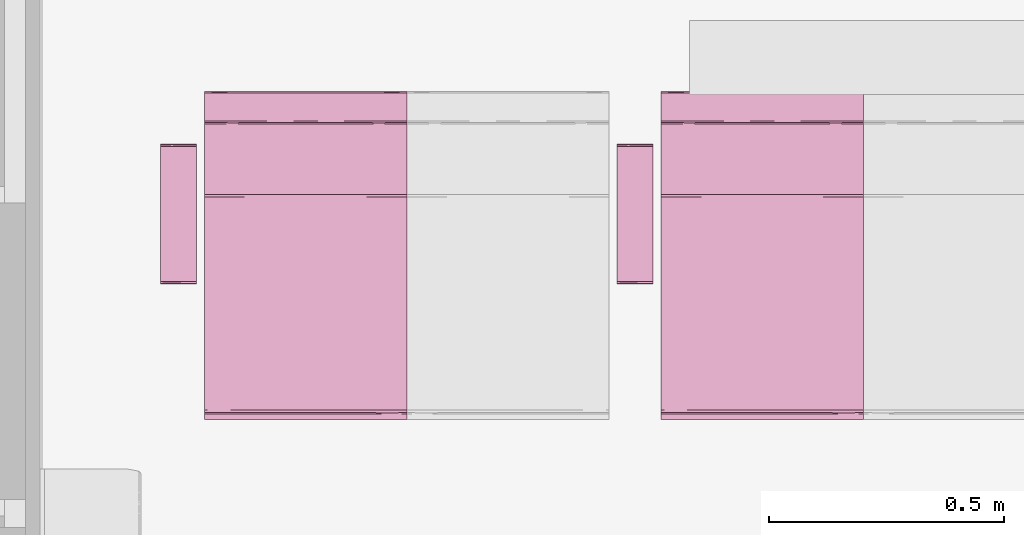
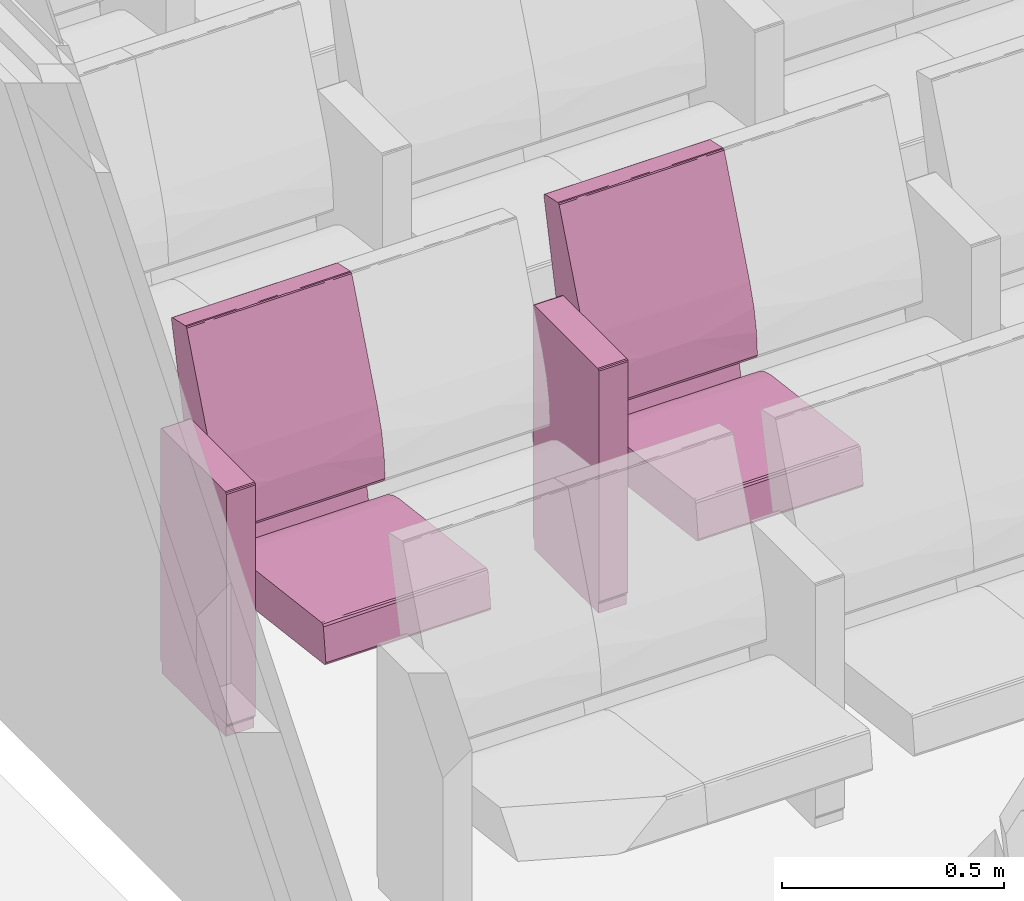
# One storey, part 97 of 155: 2 furnishings.
"""IFC2X3 building model written with IfcOpenShell, lengths in metres."""

from ifc_helpers import new_model, entity, si_unit, converted_unit, derived_unit, direction, frame, origin, place, context, subcontext, project, spatial, faceted_brep, source, transform, mapped, material, material_list, type_object, type_shapes, element, save


model = new_model("IFC2X3")

# Units and contexts
model_context = context("Model", 3, precision=1e-05, world=origin(), true_north=direction((6.12303176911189e-17, 1.0)))
body_context = subcontext(model_context, "Body", "Model", "MODEL_VIEW")
ifc_project = project(units=[si_unit("LENGTHUNIT", "METRE"), si_unit("AREAUNIT", "SQUARE_METRE"), si_unit("VOLUMEUNIT", "CUBIC_METRE"), converted_unit("PLANEANGLEUNIT", "DEGREE", entity("IfcRatioMeasure", 0.0174532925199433), si_unit("PLANEANGLEUNIT", "RADIAN"), dimensions=[0, 0, 0, 0, 0, 0, 0]), si_unit("MASSUNIT", "GRAM", prefix="KILO"), derived_unit("MASSDENSITYUNIT", [(si_unit("MASSUNIT", "GRAM", prefix="KILO"), 1), (si_unit("LENGTHUNIT", "METRE"), -3)]), si_unit("TIMEUNIT", "SECOND"), si_unit("FREQUENCYUNIT", "HERTZ"), si_unit("THERMODYNAMICTEMPERATUREUNIT", "DEGREE_CELSIUS"), derived_unit("THERMALTRANSMITTANCEUNIT", [(si_unit("MASSUNIT", "GRAM", prefix="KILO"), 1), (si_unit("THERMODYNAMICTEMPERATUREUNIT", "KELVIN"), -1), (si_unit("TIMEUNIT", "SECOND"), -3)]), derived_unit("VOLUMETRICFLOWRATEUNIT", [(si_unit("LENGTHUNIT", "METRE"), 3), (si_unit("TIMEUNIT", "SECOND"), -1)]), si_unit("ELECTRICCURRENTUNIT", "AMPERE"), si_unit("ELECTRICVOLTAGEUNIT", "VOLT"), si_unit("POWERUNIT", "WATT"), si_unit("FORCEUNIT", "NEWTON", prefix="KILO"), si_unit("ILLUMINANCEUNIT", "LUX"), si_unit("LUMINOUSFLUXUNIT", "LUMEN"), si_unit("LUMINOUSINTENSITYUNIT", "CANDELA"), derived_unit("USERDEFINED", [(si_unit("MASSUNIT", "GRAM", prefix="KILO"), -1), (si_unit("LENGTHUNIT", "METRE"), -2), (si_unit("TIMEUNIT", "SECOND"), 3), (si_unit("LUMINOUSFLUXUNIT", "LUMEN"), 1)]), derived_unit("LINEARVELOCITYUNIT", [(si_unit("LENGTHUNIT", "METRE"), 1), (si_unit("TIMEUNIT", "SECOND"), -1)]), si_unit("PRESSUREUNIT", "PASCAL"), derived_unit("USERDEFINED", [(si_unit("LENGTHUNIT", "METRE"), -2), (si_unit("MASSUNIT", "GRAM", prefix="KILO"), 1), (si_unit("TIMEUNIT", "SECOND"), -2)])], contexts=[model_context])

# Site, building, storey, space
site_placement = place(None, frame((26.9889013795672, -17.5624287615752, 0.0)))
site = spatial("IfcSite", under=ifc_project, at=site_placement, Name="Default", CompositionType="ELEMENT")
building_placement = place(site_placement, origin())
building = spatial("IfcBuilding", under=site, at=building_placement, Name="C. C. L. Monsenhor Antônio Sampaio", CompositionType="ELEMENT")
storey_placement = place(building_placement, frame((0.0, 0.0, 1.19999999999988)))
storey = spatial("IfcBuildingStorey", under=building, at=storey_placement, Name="Nível 1.2", CompositionType="ELEMENT", Elevation=1.19999999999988)
space_placement = place(storey_placement, origin())
space = spatial("IfcSpace", under=storey, at=space_placement, Name="94", CompositionType="ELEMENT", InteriorOrExteriorSpace="INTERNAL")

# Furnishings
ifc_material_1 = material(Name="V9 - V9 - Ecopelle_672_658")
ifc_material_2 = material(Name="V9 - V9 - RAL_9006_Grigio")
ifc_material_list_1 = material_list([ifc_material_1, ifc_material_2])
ifc_material_list_2 = material_list([ifc_material_1, ifc_material_2])
furniture_type = type_object("IfcFurnitureType", Name="Cadeira auditório", material=ifc_material_list_2)
shared_shape = source(origin(), body_context, "Body", "Brep", [
    faceted_brep([(0.405536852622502, 0.156348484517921, 0.339809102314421), (0.410560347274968, 0.131924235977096, 0.34246450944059), (0.405536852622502, 0.1075, 0.339809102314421), (0.405536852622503, 0.0537499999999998, 0.339809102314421), (0.410597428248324, 0.084060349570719, 0.342506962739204), (0.41079981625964, 0.0179166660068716, 0.342749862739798), (0.405536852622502, 0.215, 0.339809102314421), (0.410248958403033, 0.173608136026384, 0.342130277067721), (0.412515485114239, 0.185674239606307, 0.348529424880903), (0.412515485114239, 0.143333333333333, 0.348529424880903), (0.410560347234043, -0.131924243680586, 0.342464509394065), (0.405536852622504, -0.156348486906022, 0.33980910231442), (0.405536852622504, -0.1075, 0.33980910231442), (0.405536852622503, 0.0, 0.33980910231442), (0.41251548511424, 0.0, 0.348529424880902), (0.411170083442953, -0.0341365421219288, 0.343251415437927), (0.41059742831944, -0.0840603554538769, 0.342506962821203), (0.41251548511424, -0.143333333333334, 0.348529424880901), (0.412515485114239, 0.0358333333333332, 0.348529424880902), (0.412515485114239, 0.0716666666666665, 0.348529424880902), (0.405536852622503, -0.0537500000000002, 0.33980910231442), (0.412515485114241, -0.185674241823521, 0.348529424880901), (0.410799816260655, -0.215, 0.342749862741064), (0.410248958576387, -0.173608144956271, 0.342130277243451), (0.410799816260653, 0.215, 0.342749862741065), (0.412515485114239, 0.215, 0.348529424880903), (0.412515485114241, -0.215, 0.348529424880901), (0.41251548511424, -0.0716666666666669, 0.348529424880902), (0.405536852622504, -0.215, 0.33980910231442), (-0.0557900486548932, -0.215, 0.28268145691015), (-0.055790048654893, -0.168631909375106, 0.282681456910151), (-0.0557900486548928, -0.138065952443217, 0.282681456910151), (-0.0557900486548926, -0.107499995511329, 0.282681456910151), (-0.0557900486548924, -0.0806249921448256, 0.282681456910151), (-0.0557900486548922, -0.0537499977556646, 0.282681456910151), (-0.0557900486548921, -0.0268750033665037, 0.282681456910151), (-0.0557900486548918, 0.0, 0.28268145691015), (-0.0557900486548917, 0.0268749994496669, 0.282681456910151), (-0.0557900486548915, 0.0537499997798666, 0.282681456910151), (-0.0557900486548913, 0.0806250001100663, 0.282681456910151), (-0.0557900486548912, 0.107499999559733, 0.282681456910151), (-0.055790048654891, 0.134374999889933, 0.282681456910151), (-0.0557900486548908, 0.161250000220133, 0.282681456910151), (-0.0557900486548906, 0.1881249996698, 0.282681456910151), (-0.0557900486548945, 0.215, 0.28268145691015), (-0.0594787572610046, -0.0152829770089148, 0.283700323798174), (-0.0613666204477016, 0.0, 0.287029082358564), (-0.0594787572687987, 0.0179017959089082, 0.283700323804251), (-0.0613666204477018, 0.191815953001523, 0.287029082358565), (-0.0613666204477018, 0.215, 0.287029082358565), (-0.0594787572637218, 0.215, 0.283700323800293), (-0.0593340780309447, 0.0671874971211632, 0.283591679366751), (-0.0613666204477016, 0.030565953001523, 0.287029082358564), (-0.0594787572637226, -0.215, 0.283700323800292), (-0.0593337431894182, -0.184174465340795, 0.283591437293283), (-0.0613666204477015, -0.122263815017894, 0.287029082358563), (-0.0613666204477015, -0.0916978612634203, 0.287029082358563), (-0.0613666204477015, -0.0611319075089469, 0.287029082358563), (-0.0593023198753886, -0.0940625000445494, 0.283568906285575), (-0.059382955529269, 0.118123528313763, 0.28362747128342), (-0.0613666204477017, 0.122263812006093, 0.287029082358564), (-0.0597338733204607, 0.147039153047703, 0.283913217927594), (-0.0613666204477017, 0.168631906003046, 0.287029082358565), (-0.0592501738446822, 0.180223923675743, 0.283532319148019), (-0.0588783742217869, 0.0926899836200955, 0.283298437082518), (-0.0613666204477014, -0.215, 0.287029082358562), (-0.0613666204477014, -0.168631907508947, 0.287029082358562), (-0.0592576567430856, -0.123736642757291, 0.283537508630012), (-0.0594787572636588, -0.153348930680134, 0.283700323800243), (-0.0613666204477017, 0.0916978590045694, 0.287029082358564), (-0.0613666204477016, -0.0305659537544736, 0.287029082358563), (-0.059645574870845, -0.045848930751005, 0.283836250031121), (-0.0613666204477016, 0.0611319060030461, 0.287029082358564), (-0.069340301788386, -0.215, 0.351419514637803), (-0.0693403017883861, -0.143333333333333, 0.351419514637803), (-0.0693403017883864, -0.0716666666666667, 0.351419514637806), (-0.0693403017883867, 0.0, 0.351419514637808), (-0.069340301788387, 0.0716666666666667, 0.351419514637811), (-0.0693403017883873, 0.143333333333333, 0.351419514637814), (-0.0693403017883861, 0.215, 0.351419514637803), (-0.0597085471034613, 0.0, 0.37476954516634), (-0.0645543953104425, 0.112272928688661, 0.369803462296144), (-0.0653387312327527, 0.0126787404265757, 0.368680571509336), (-0.0681665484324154, -0.0888707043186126, 0.36292533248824), (-0.0655136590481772, -0.10440004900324, 0.368411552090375), (-0.0694879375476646, 0.0590582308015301, 0.356377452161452), (-0.0695056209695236, -0.125492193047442, 0.356093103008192), (-0.0597085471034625, -0.110316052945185, 0.374769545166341), (-0.0690003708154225, 0.132942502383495, 0.359900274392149), (-0.0672851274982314, 0.108066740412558, 0.365148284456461), (-0.0676206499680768, 0.215, 0.364371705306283), (-0.0686241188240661, 0.215, 0.356813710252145), (-0.0686241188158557, -0.214999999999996, 0.356813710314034), (-0.0686999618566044, 0.0358333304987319, 0.36116674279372), (-0.0694502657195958, -0.0358333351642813, 0.356863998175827), (-0.0676206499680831, -0.214999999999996, 0.364371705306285), (-0.0636645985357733, -0.214999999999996, 0.369570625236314), (-0.0597085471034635, -0.214999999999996, 0.374769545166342), (-0.0597085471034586, 0.215, 0.374769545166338), (-0.0636645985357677, 0.215, 0.36957062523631), (-0.0597085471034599, 0.110316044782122, 0.374769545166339), (-0.0324117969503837, 0.215, 0.390639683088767), (-0.0324117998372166, 0.0436847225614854, 0.39063968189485), (-0.0018793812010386, 0.215, 0.398686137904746), (-0.041847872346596, -0.0856576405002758, 0.386239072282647), (-0.0324117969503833, -0.215, 0.390639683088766), (-0.00187938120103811, -0.215, 0.398686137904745), (-0.00187938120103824, -0.102488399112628, 0.398686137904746), (-0.0219042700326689, -0.0570631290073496, 0.394412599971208), (-0.00187938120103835, 0.0, 0.398686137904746), (0.392202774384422, 0.215, 0.447486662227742), (0.392202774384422, -0.215, 0.447486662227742), (0.392202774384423, -0.156349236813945, 0.447486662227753), (0.392202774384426, -0.107499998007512, 0.447486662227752), (0.392202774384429, -0.0537500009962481, 0.44748666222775), (0.392202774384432, 0.0, 0.447486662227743), (0.392202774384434, 0.0537499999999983, 0.447486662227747), (0.392202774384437, 0.107499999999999, 0.447486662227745), (0.392202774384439, 0.156349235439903, 0.447486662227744), (0.398104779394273, -0.131924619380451, 0.445856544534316), (0.401125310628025, -0.0976984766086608, 0.440530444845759), (0.397860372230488, -0.0827732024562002, 0.446039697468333), (0.401125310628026, -0.215000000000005, 0.440530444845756), (0.401125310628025, -0.156349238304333, 0.440530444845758), (0.397373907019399, -0.173462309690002, 0.446363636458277), (0.398104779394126, -0.215000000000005, 0.445856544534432), (0.397860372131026, 0.0827731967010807, 0.446039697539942), (0.398104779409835, 0.131924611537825, 0.445856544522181), (0.398104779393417, -0.0237489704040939, 0.445856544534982), (0.398104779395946, 0.0268749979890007, 0.445856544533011), (0.401125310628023, 0.0488492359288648, 0.440530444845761), (0.401125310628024, -0.0488492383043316, 0.440530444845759), (0.398774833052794, 0.173462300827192, 0.445271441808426), (0.401125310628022, 0.097698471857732, 0.440530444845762), (0.401125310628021, 0.215, 0.440530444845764), (0.39810477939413, 0.215, 0.445856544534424), (0.401125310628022, 0.156349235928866, 0.440530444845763), (0.401125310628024, 0.0, 0.44053044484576)], [[[0, 1, 2]], [[3, 4, 5]], [[6, 7, 0]], [[7, 8, 9]], [[10, 11, 12]], [[3, 5, 13]], [[14, 15, 5]], [[16, 17, 10]], [[9, 1, 7]], [[18, 5, 4]], [[4, 9, 19, 18]], [[9, 4, 1]], [[2, 1, 4]], [[13, 15, 20]], [[21, 22, 23]], [[5, 18, 14]], [[24, 25, 8]], [[22, 21, 26]], [[24, 7, 6]], [[23, 11, 10]], [[20, 15, 16]], [[3, 2, 4]], [[14, 27, 15]], [[5, 15, 13]], [[27, 17, 16]], [[10, 12, 16]], [[21, 23, 17]], [[20, 16, 12]], [[15, 27, 16]], [[7, 1, 0]], [[28, 11, 23]], [[8, 7, 24]], [[23, 10, 17]], [[28, 23, 22]], [[28, 29, 30, 31, 32, 33, 34, 35, 36, 37, 38, 39, 40, 41, 42, 43, 44, 6, 0, 2, 3, 13, 20, 12, 11]], [[45, 46, 47]], [[48, 49, 50]], [[51, 47, 52]], [[29, 53, 54]], [[55, 56, 57, 58]], [[59, 60, 61]], [[61, 62, 63]], [[51, 64, 39]], [[65, 66, 54]], [[31, 67, 32]], [[45, 47, 38, 37, 36, 35]], [[68, 31, 30]], [[43, 50, 44]], [[63, 42, 61]], [[48, 50, 63]], [[64, 69, 59]], [[68, 54, 66]], [[63, 62, 48]], [[50, 43, 63]], [[67, 55, 58]], [[61, 42, 41]], [[45, 70, 46]], [[55, 68, 66]], [[71, 33, 58]], [[71, 57, 70]], [[41, 40, 59]], [[60, 62, 61]], [[71, 35, 34, 33]], [[35, 71, 45]], [[47, 46, 52]], [[45, 71, 70]], [[58, 57, 71]], [[32, 58, 33]], [[31, 68, 67]], [[54, 68, 30]], [[29, 54, 30]], [[54, 53, 65]], [[55, 67, 68]], [[32, 67, 58]], [[51, 52, 72, 69]], [[43, 42, 63]], [[41, 59, 61]], [[47, 51, 38]], [[40, 39, 64]], [[38, 51, 39]], [[69, 60, 59]], [[69, 64, 51]], [[40, 64, 59]], [[65, 73, 74, 75, 76, 77, 78, 79, 49, 48, 62, 60, 69, 72, 52, 46, 70, 57, 56, 55, 66]], [[80, 81, 82]], [[82, 83, 84]], [[78, 77, 76, 85]], [[86, 75, 74]], [[84, 80, 82]], [[80, 84, 87]], [[88, 89, 90]], [[91, 79, 78]], [[74, 73, 92]], [[85, 88, 91]], [[81, 89, 82]], [[93, 94, 83]], [[94, 86, 83]], [[85, 76, 94]], [[92, 86, 74]], [[85, 94, 93]], [[83, 92, 95]], [[75, 94, 76]], [[93, 83, 82]], [[95, 96, 84]], [[88, 85, 93]], [[96, 97, 87]], [[98, 99, 100]], [[78, 85, 91]], [[89, 88, 93]], [[90, 91, 88]], [[93, 82, 89]], [[81, 99, 89]], [[99, 90, 89]], [[100, 81, 80]], [[100, 99, 81]], [[83, 86, 92]], [[75, 86, 94]], [[95, 84, 83]], [[87, 84, 96]], [[101, 102, 103]], [[104, 80, 87, 97]], [[105, 106, 107]], [[107, 108, 105]], [[103, 102, 109]], [[104, 102, 80]], [[104, 108, 102]], [[98, 102, 101]], [[105, 104, 97]], [[105, 108, 104]], [[102, 98, 100, 80]], [[109, 108, 107]], [[109, 102, 108]], [[110, 103, 109, 107, 106, 111, 112, 113, 114, 115, 116, 117, 118]], [[119, 120, 121]], [[122, 123, 124]], [[111, 125, 124]], [[117, 116, 126]], [[124, 119, 112]], [[113, 112, 119]], [[127, 118, 117]], [[115, 114, 128, 129, 116]], [[129, 130, 126]], [[121, 131, 128]], [[127, 132, 118]], [[110, 118, 132]], [[127, 126, 133]], [[119, 124, 123]], [[134, 135, 132]], [[136, 132, 127]], [[120, 119, 123]], [[133, 136, 127]], [[137, 130, 129, 128, 131]], [[126, 127, 117]], [[130, 133, 126]], [[113, 119, 121]], [[129, 126, 116]], [[128, 114, 121]], [[114, 113, 121]], [[131, 121, 120]], [[111, 124, 112]], [[124, 125, 122]], [[134, 132, 136]], [[132, 135, 110]], [[19, 9, 8, 25, 134, 136, 133, 130, 137, 131, 120, 123, 122, 26, 21, 17, 27, 14, 18]], [[65, 53, 29, 28, 22, 26, 122, 125, 111, 106, 105, 97, 96, 95, 92, 73]], [[98, 101, 103, 110, 135, 134, 25, 24, 6, 44, 50, 49, 79, 91, 90, 99]]]),
    faceted_brep([(0.123144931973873, -0.283972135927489, 0.673627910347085), (0.12334838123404, -0.259944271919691, 0.6734355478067), (0.119812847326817, -0.27, 0.674900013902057), (0.124812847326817, -0.27, 0.669900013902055), (0.12334838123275, -0.232, 0.673435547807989), (0.119812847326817, -0.232, 0.674900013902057), (0.124812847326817, -0.308, 0.669900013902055), (0.119812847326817, -0.308, 0.674900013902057), (0.124812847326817, -0.249888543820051, 0.669900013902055), (0.124812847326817, -0.232, 0.669900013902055), (0.12334838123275, -0.308, 0.673435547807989), (0.124812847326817, -0.27, 0.035), (0.124812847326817, -0.232, 0.035), (0.124812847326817, -0.308, 0.0350000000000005), (0.123540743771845, -0.283972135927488, 0.0316679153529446), (0.12334838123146, -0.25994427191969, 0.0314644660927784), (0.119812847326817, -0.27, 0.0300000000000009), (0.12334838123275, -0.232, 0.0314644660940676), (0.119812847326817, -0.308, 0.0300000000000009), (0.119812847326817, -0.249888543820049, 0.030000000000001), (0.119812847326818, -0.232, 0.030000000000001), (0.123348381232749, -0.308, 0.0314644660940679), (-0.167179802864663, -0.308, 0.0300000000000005), (-0.167179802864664, -0.27, 0.0300000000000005), (-0.167179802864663, -0.232, 0.0300000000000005), (-0.17051188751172, -0.283972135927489, 0.0312721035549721), (-0.170715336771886, -0.25994427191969, 0.0314644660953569), (-0.172179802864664, -0.27, 0.0350000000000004), (-0.170715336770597, -0.232, 0.0314644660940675), (-0.172179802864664, -0.308, 0.0350000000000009), (-0.172179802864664, -0.24988854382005, 0.0350000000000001), (-0.172179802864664, -0.232, 0.0349999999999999), (-0.170715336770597, -0.308, 0.0314644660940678), (-0.172179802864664, -0.308, 0.669900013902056), (-0.172179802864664, -0.27, 0.669900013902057), (-0.172179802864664, -0.232, 0.669900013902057), (-0.170907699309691, -0.283972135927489, 0.673232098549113), (-0.170715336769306, -0.259944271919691, 0.673435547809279), (-0.167179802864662, -0.27, 0.674900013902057), (-0.170715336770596, -0.232, 0.67343554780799), (-0.167179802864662, -0.308, 0.674900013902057), (-0.167179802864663, -0.249888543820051, 0.674900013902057), (-0.167179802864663, -0.232, 0.674900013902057), (-0.170715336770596, -0.308, 0.67343554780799)], [[[0, 1, 2]], [[1, 0, 3]], [[1, 4, 5, 2]], [[6, 3, 0]], [[7, 0, 2]], [[4, 1, 3, 8, 9]], [[10, 0, 7]], [[0, 10, 6]], [[11, 12, 9, 8, 3, 6, 13]], [[14, 15, 11]], [[15, 14, 16]], [[15, 17, 12, 11]], [[18, 16, 14]], [[13, 14, 11]], [[17, 15, 16, 19, 20]], [[21, 14, 13]], [[14, 21, 18]], [[18, 22, 23, 24, 20, 19, 16]], [[25, 26, 23]], [[26, 25, 27]], [[26, 28, 24, 23]], [[29, 27, 25]], [[22, 25, 23]], [[28, 26, 27, 30, 31]], [[32, 25, 22]], [[25, 32, 29]], [[27, 29, 33, 34, 35, 31, 30]], [[36, 37, 34]], [[37, 36, 38]], [[37, 39, 35, 34]], [[40, 38, 36]], [[33, 36, 34]], [[39, 37, 38, 41, 42]], [[43, 36, 33]], [[36, 43, 40]], [[40, 7, 2, 5, 42, 41, 38]], [[35, 39, 42, 5, 4, 9, 12, 17, 20, 24, 28, 31]], [[29, 32, 22, 18, 21, 13, 6, 10, 7, 40, 43, 33]]]),
    faceted_brep([(-0.0695672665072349, 0.215, 0.476508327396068), (-0.074405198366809, 0.0524423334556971, 0.506888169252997), (-0.0655618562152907, 0.215, 0.415143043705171), (-0.0744051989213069, -0.0780075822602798, 0.506888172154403), (-0.0655618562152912, 0.0, 0.415143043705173), (-0.0655618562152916, -0.215, 0.415143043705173), (-0.0655618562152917, -0.1075, 0.415143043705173), (-0.0655618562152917, 0.1075, 0.415143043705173), (-0.0695672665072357, -0.215, 0.476508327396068), (-0.081111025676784, -0.215, 0.536911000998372), (-0.0811110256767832, 0.215, 0.536911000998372), (-0.100016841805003, 0.215, 0.595428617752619), (-0.100016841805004, 0.0, 0.595428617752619), (-0.100016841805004, -0.215, 0.595428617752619), (-0.0698317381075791, 0.0358333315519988, 0.406528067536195), (-0.0792851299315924, 0.0, 0.404772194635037), (-0.0792851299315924, 0.0716666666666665, 0.404772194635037), (-0.0792851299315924, -0.215, 0.404772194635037), (-0.0792851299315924, -0.143333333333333, 0.404772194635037), (-0.0698317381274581, -0.215, 0.406528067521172), (-0.0792851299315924, 0.143333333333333, 0.404772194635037), (-0.0792851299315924, 0.215, 0.404772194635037), (-0.0698317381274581, 0.215, 0.406528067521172), (-0.0694171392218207, 0.140338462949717, 0.406857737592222), (-0.0708115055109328, -0.0356393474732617, 0.405868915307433), (-0.0703502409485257, -0.107500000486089, 0.406159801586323), (-0.0792851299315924, -0.0716666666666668, 0.404772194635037), (-0.163837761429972, -0.215, 0.420611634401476), (-0.163837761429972, 0.215, 0.420611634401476), (-0.123612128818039, 0.215, 0.235917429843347), (-0.123612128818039, -0.215, 0.235917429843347), (-0.142059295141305, -0.215, 0.231899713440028), (-0.142059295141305, 0.215, 0.231899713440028), (-0.235388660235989, -0.215, 0.652619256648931), (-0.235388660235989, 0.215, 0.652619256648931), (-0.28428001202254, -0.215, 0.873004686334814), (-0.284280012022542, -0.191295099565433, 0.873004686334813), (-0.284280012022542, -0.161249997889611, 0.873004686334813), (-0.284280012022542, -0.134374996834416, 0.873004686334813), (-0.284280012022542, -0.107499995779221, 0.873004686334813), (-0.284280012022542, -0.0806249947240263, 0.873004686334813), (-0.284280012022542, -0.0537499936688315, 0.873004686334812), (-0.284280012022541, -0.0268749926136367, 0.873004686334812), (-0.28428001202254, 0.0, 0.873004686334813), (-0.284280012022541, 0.0268749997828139, 0.873004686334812), (-0.284280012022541, 0.0537500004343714, 0.873004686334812), (-0.284280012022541, 0.0806250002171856, 0.873004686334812), (-0.284280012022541, 0.1075, 0.873004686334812), (-0.284280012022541, 0.134374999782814, 0.873004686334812), (-0.28428001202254, 0.161249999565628, 0.873004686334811), (-0.28428001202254, 0.191295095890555, 0.873004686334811), (-0.28428001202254, 0.215, 0.873004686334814), (-0.283746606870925, 0.0872244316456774, 0.876674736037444), (-0.283504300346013, 0.0569644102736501, 0.877068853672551), (-0.283567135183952, -0.15546176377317, 0.876973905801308), (-0.283641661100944, -0.12093750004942, 0.87685511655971), (-0.283567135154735, 0.155461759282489, 0.876973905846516), (-0.28330409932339, 0.185293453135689, 0.877344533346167), (-0.283641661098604, 0.0179166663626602, 0.876855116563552), (-0.283641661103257, -0.0136463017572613, 0.876855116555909), (-0.280514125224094, -0.0358333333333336, 0.879190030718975), (-0.280514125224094, 0.0, 0.879190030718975), (-0.280514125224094, 0.0358333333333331, 0.879190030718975), (-0.280514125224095, -0.143333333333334, 0.879190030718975), (-0.280514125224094, -0.1075, 0.879190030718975), (-0.280514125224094, -0.071666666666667, 0.879190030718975), (-0.283746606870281, -0.0872244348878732, 0.876674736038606), (-0.280514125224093, 0.0716666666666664, 0.879190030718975), (-0.280514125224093, 0.1075, 0.879190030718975), (-0.283641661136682, 0.120937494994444, 0.876855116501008), (-0.280514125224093, 0.143333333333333, 0.879190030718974), (-0.283641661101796, 0.215, 0.876855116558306), (-0.283641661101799, -0.215, 0.876855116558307), (-0.283304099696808, -0.18529345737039, 0.877344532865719), (-0.280514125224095, -0.167590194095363, 0.879190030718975), (-0.280514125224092, 0.215, 0.879190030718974), (-0.280514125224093, 0.167590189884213, 0.879190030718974), (-0.280514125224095, -0.215, 0.879190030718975), (-0.283504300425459, -0.0569644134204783, 0.8770688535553), (-0.22111253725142, 0.215, 0.892176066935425), (-0.22111253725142, -0.215, 0.892176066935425), (-0.221112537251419, -0.191815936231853, 0.892176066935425), (-0.221112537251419, -0.161250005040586, 0.892176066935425), (-0.221112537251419, -0.134375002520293, 0.892176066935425), (-0.221112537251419, -0.1075, 0.892176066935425), (-0.221112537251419, -0.080624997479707, 0.892176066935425), (-0.221112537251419, -0.0537499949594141, 0.892176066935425), (-0.221112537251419, -0.0268750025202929, 0.892176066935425), (-0.221112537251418, 0.0, 0.892176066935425), (-0.221112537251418, 0.0268750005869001, 0.892176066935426), (-0.221112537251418, 0.05375000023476, 0.892176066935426), (-0.221112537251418, 0.0806249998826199, 0.892176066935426), (-0.221112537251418, 0.10749999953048, 0.892176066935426), (-0.221112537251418, 0.13437499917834, 0.892176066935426), (-0.221112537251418, 0.16124999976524, 0.892176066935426), (-0.221112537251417, 0.19181594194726, 0.892176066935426), (-0.215419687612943, 0.0, 0.889191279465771), (-0.215419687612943, 0.0358333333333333, 0.889191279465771), (-0.217722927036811, 0.0162353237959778, 0.891719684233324), (-0.217722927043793, -0.0134375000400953, 0.891719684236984), (-0.215419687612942, -0.191815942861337, 0.889191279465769), (-0.215419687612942, -0.168631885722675, 0.889191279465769), (-0.217722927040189, -0.182482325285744, 0.891719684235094), (-0.217722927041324, -0.215, 0.891719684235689), (-0.215419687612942, -0.215, 0.889191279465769), (-0.215419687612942, -0.1075, 0.88919127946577), (-0.215419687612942, -0.0716666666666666, 0.88919127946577), (-0.217722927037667, -0.0912646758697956, 0.891719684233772), (-0.217722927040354, -0.120937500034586, 0.89171968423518), (-0.215419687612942, -0.143333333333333, 0.88919127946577), (-0.215419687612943, 0.191815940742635, 0.889191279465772), (-0.215419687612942, 0.215, 0.889191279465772), (-0.217722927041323, 0.215, 0.89171968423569), (-0.217722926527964, 0.190103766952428, 0.891719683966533), (-0.217722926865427, 0.0912646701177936, 0.891719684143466), (-0.217816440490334, 0.0647800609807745, 0.891767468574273), (-0.215419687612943, 0.0716666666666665, 0.889191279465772), (-0.217816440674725, -0.0647800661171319, 0.891767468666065), (-0.2179983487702, -0.0390825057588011, 0.891853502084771), (-0.217558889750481, -0.155982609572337, 0.891629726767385), (-0.217722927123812, 0.120937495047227, 0.891719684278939), (-0.215419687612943, 0.16863188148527, 0.889191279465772), (-0.215419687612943, 0.143333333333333, 0.889191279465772), (-0.217558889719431, 0.15598260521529, 0.891629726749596), (-0.215419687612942, -0.0358333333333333, 0.889191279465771), (-0.215419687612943, 0.1075, 0.889191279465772), (-0.218257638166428, 0.0404491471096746, 0.891961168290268)], [[[0, 1, 2]], [[1, 3, 4]], [[3, 5, 6, 4]], [[1, 4, 7, 2]], [[5, 3, 8]], [[8, 3, 9]], [[0, 10, 1]], [[11, 12, 1]], [[3, 13, 9]], [[3, 12, 13]], [[11, 1, 10]], [[3, 1, 12]], [[14, 15, 16]], [[17, 18, 19]], [[20, 21, 22]], [[2, 23, 22]], [[14, 7, 4]], [[14, 24, 15]], [[6, 25, 24]], [[22, 23, 20]], [[14, 23, 7]], [[19, 6, 5]], [[4, 24, 14]], [[16, 23, 14]], [[16, 20, 23]], [[26, 25, 18]], [[25, 19, 18]], [[15, 24, 26]], [[23, 2, 7]], [[19, 25, 6]], [[26, 24, 25]], [[6, 24, 4]], [[15, 26, 18, 17, 27, 28, 21, 20, 16]], [[29, 28, 27, 30]], [[30, 31, 32, 29]], [[32, 31, 33, 34]], [[34, 33, 35, 36, 37, 38, 39, 40, 41, 42, 43, 44, 45, 46, 47, 48, 49, 50, 51]], [[52, 46, 53]], [[38, 54, 55]], [[56, 57, 49]], [[58, 59, 60, 61, 62]], [[63, 64, 55]], [[64, 65, 66]], [[52, 67, 68]], [[69, 70, 56]], [[49, 57, 50]], [[38, 55, 39]], [[71, 51, 50]], [[36, 35, 72]], [[59, 58, 44, 43, 42]], [[73, 74, 54]], [[55, 66, 39]], [[75, 57, 76]], [[77, 74, 73]], [[69, 52, 68]], [[37, 36, 73]], [[54, 74, 63]], [[56, 76, 57]], [[36, 72, 73]], [[75, 71, 57]], [[70, 76, 56]], [[52, 69, 47]], [[48, 47, 69]], [[42, 78, 59]], [[66, 55, 64]], [[50, 57, 71]], [[73, 54, 37]], [[77, 73, 72]], [[48, 69, 56]], [[56, 49, 48]], [[69, 68, 70]], [[53, 46, 45, 44]], [[58, 62, 53]], [[53, 44, 58]], [[38, 37, 54]], [[63, 55, 54]], [[78, 66, 65]], [[78, 40, 66]], [[67, 52, 53]], [[78, 42, 41, 40]], [[65, 60, 78]], [[59, 78, 60]], [[52, 47, 46]], [[40, 39, 66]], [[62, 67, 53]], [[79, 75, 76, 70, 68, 67, 62, 61, 60, 65, 64, 63, 74, 77, 80, 81, 82, 83, 84, 85, 86, 87, 88, 89, 90, 91, 92, 93, 94, 95]], [[96, 97, 98, 99]], [[100, 101, 102, 103, 104]], [[105, 106, 107, 108, 109]], [[110, 111, 112]], [[113, 112, 95]], [[114, 115, 116]], [[117, 118, 86]], [[82, 119, 83]], [[102, 82, 81, 80, 103]], [[112, 79, 95]], [[108, 107, 85, 84, 83]], [[88, 87, 99, 98, 89]], [[119, 101, 109]], [[93, 92, 120]], [[117, 85, 107]], [[113, 121, 110]], [[122, 121, 123]], [[113, 94, 123]], [[124, 99, 118]], [[122, 123, 120]], [[108, 119, 109]], [[113, 110, 112]], [[102, 101, 119]], [[119, 108, 83]], [[114, 125, 120]], [[123, 94, 93]], [[93, 120, 123]], [[114, 120, 92]], [[122, 120, 125]], [[117, 107, 106]], [[114, 92, 91]], [[116, 125, 114]], [[115, 91, 90]], [[85, 117, 86]], [[126, 89, 98]], [[117, 106, 124]], [[118, 99, 87]], [[124, 96, 99]], [[97, 116, 115]], [[97, 115, 126]], [[86, 118, 87]], [[124, 118, 117]], [[91, 115, 114]], [[115, 90, 126]], [[89, 126, 90]], [[97, 126, 98]], [[82, 102, 119]], [[94, 113, 95]], [[121, 113, 123]], [[11, 111, 110, 121, 122, 125, 116, 97, 96, 124, 106, 105, 109, 101, 100, 104, 13, 12]], [[27, 17, 19, 5, 8, 9, 13, 104, 103, 80, 77, 72, 35, 33, 31, 30]], [[51, 71, 75, 79, 112, 111, 11, 10, 0, 2, 22, 21, 28, 29, 32, 34]]]),
    faceted_brep([(0.120312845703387, -0.2335, 0.0), (0.120312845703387, -0.2335, 0.0260000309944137), (0.120312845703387, -0.249500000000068, 0.0260000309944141), (0.120312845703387, -0.27, 0.0260000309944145), (0.120312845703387, -0.3065, 0.0260000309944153), (0.120312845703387, -0.3065, 0.0), (-0.167687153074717, -0.3065, 0.0), (-0.167687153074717, -0.2335, 0.0), (-0.167687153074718, -0.27, 0.0260000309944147), (-0.167687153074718, -0.2335, 0.0260000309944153), (-0.167687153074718, -0.3065, 0.0260000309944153), (-0.166521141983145, -0.233500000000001, 0.0288228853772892), (-0.166521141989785, -0.257382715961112, 0.0288228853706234), (-0.163702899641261, -0.233500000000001, 0.0300000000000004), (-0.163702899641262, -0.3065, 0.0300000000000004), (-0.16652114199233, -0.279986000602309, 0.0288228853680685), (-0.166521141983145, -0.3065, 0.0288228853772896), (-0.163702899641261, -0.27, 0.0300000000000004), (0.116297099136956, -0.3065, 0.0300000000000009), (0.116297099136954, -0.269999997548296, 0.0300000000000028), (0.116297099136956, -0.2335, 0.0300000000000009), (0.119033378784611, -0.283124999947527, 0.0289323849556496), (0.1191357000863, -0.2335, 0.0288340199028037), (0.119135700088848, -0.259750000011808, 0.0288340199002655), (0.119135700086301, -0.3065, 0.0288340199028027)], [[[0, 1, 2, 3, 4, 5]], [[0, 5, 6, 7]], [[8, 9, 7, 6, 10]], [[11, 12, 13]], [[14, 15, 16]], [[15, 14, 17, 13, 12]], [[9, 8, 12, 11]], [[16, 15, 10]], [[8, 10, 15, 12]], [[14, 18, 19, 20, 13, 17]], [[21, 4, 3]], [[22, 20, 19, 23]], [[3, 2, 1, 22, 23]], [[24, 21, 18]], [[21, 3, 23]], [[18, 21, 19]], [[21, 24, 4]], [[21, 23, 19]], [[6, 5, 4, 24, 18, 14, 16, 10]], [[7, 9, 11, 13, 20, 22, 1, 0]]]),
])
type_shapes(furniture_type, [shared_shape])
furnishing_1_placement = place(space_placement, frame((-12.4559492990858, -13.3554126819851, 0.0), z_axis=(0.0, 0.0, 1.0), x_axis=(0.0, -1.0, 0.0)))
element("IfcFurnishingElement", 1, at=furnishing_1_placement, inside=space, type_object=furniture_type, material=ifc_material_list_1, Name="cadeira auditório pcd:Cadeira auditório", ObjectType="Cadeira auditório", context=body_context, shape_type="MappedRepresentation", body=[
    mapped(shared_shape, transform((0.0, 0.0, 0.0), scale=1.0)),
])
ifc_material_list_3 = material_list([ifc_material_1, ifc_material_2])
furnishing_2_placement = place(space_placement, frame((-13.4259492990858, -13.3554126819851, 0.0), z_axis=(0.0, 0.0, 1.0), x_axis=(0.0, -1.0, 0.0)))
element("IfcFurnishingElement", 2, at=furnishing_2_placement, inside=space, type_object=furniture_type, material=ifc_material_list_3, Name="cadeira auditório pcd:Cadeira auditório", ObjectType="Cadeira auditório", context=body_context, shape_type="MappedRepresentation", body=[
    mapped(shared_shape, transform((0.0, 0.0, 0.0), scale=1.0)),
])

save(model, "model.ifc")
